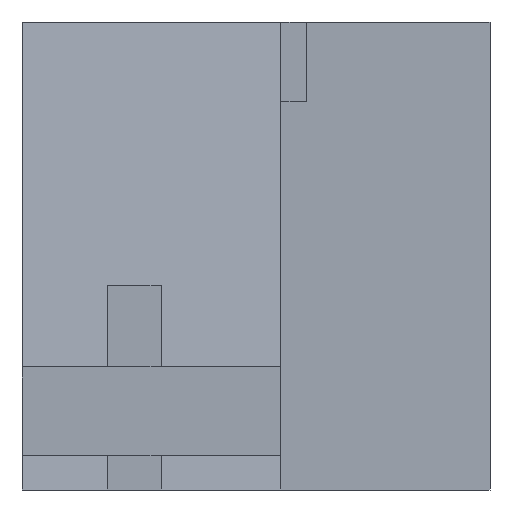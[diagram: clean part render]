
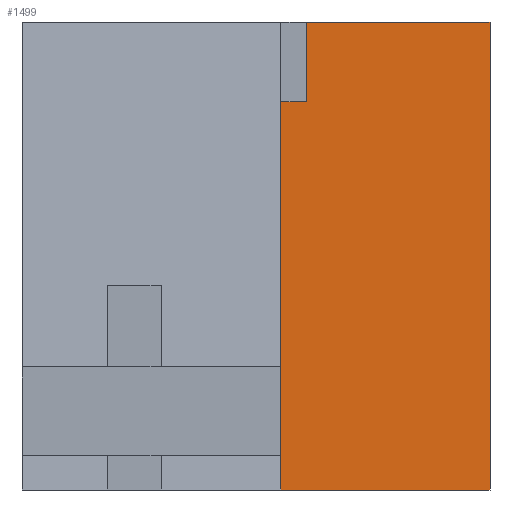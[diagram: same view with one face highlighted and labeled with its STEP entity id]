
A CAD part, front view. The second image highlights one B-rep face of the part: STEP entity #1499.
In plain terms, the highlighted planar face has unit normal (0, -1, 0).
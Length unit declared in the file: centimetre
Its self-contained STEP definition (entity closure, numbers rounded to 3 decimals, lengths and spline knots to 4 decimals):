
#33 = VERTEX_POINT ( 'NONE', #148 ) ;
#38 = CARTESIAN_POINT ( 'NONE',  ( 1000., 0., 1000. ) ) ;
#83 = AXIS2_PLACEMENT_3D ( 'NONE', #316, #905, #1525 ) ;
#91 = EDGE_CURVE ( 'NONE', #33, #1008, #984, .T. ) ;
#125 = CARTESIAN_POINT ( 'NONE',  ( 607.8795, 0., 1000. ) ) ;
#148 = CARTESIAN_POINT ( 'NONE',  ( 607.8795, 0., 829.7585 ) ) ;
#164 = VECTOR ( 'NONE', #183, 100. ) ;
#183 = DIRECTION ( 'NONE',  ( 0., 0., -1. ) ) ;
#185 = VECTOR ( 'NONE', #1221, 100. ) ;
#220 = VECTOR ( 'NONE', #1006, 100. ) ;
#286 = EDGE_CURVE ( 'NONE', #366, #1459, #596, .T. ) ;
#316 = CARTESIAN_POINT ( 'NONE',  ( 0., 0., 1000. ) ) ;
#345 = ORIENTED_EDGE ( 'NONE', *, *, #775, .F. ) ;
#366 = VERTEX_POINT ( 'NONE', #125 ) ;
#428 = VECTOR ( 'NONE', #1924, 100. ) ;
#451 = CARTESIAN_POINT ( 'NONE',  ( 552.8898, 0., 0. ) ) ;
#465 = PLANE ( 'NONE',  #83 ) ;
#596 = LINE ( 'NONE', #1209, #185 ) ;
#647 = CARTESIAN_POINT ( 'NONE',  ( 552.8898, 0., 0. ) ) ;
#661 = ORIENTED_EDGE ( 'NONE', *, *, #2012, .F. ) ;
#746 = EDGE_LOOP ( 'NONE', ( #345, #857, #661, #872, #1067, #886 ) ) ;
#775 = EDGE_CURVE ( 'NONE', #33, #366, #1600, .T. ) ;
#857 = ORIENTED_EDGE ( 'NONE', *, *, #91, .T. ) ;
#872 = ORIENTED_EDGE ( 'NONE', *, *, #1628, .T. ) ;
#880 = VERTEX_POINT ( 'NONE', #1140 ) ;
#886 = ORIENTED_EDGE ( 'NONE', *, *, #286, .F. ) ;
#905 = DIRECTION ( 'NONE',  ( 0., 1., 0. ) ) ;
#937 = CARTESIAN_POINT ( 'NONE',  ( 552.8898, 0., 829.7585 ) ) ;
#980 = VERTEX_POINT ( 'NONE', #451 ) ;
#984 = LINE ( 'NONE', #1441, #428 ) ;
#1006 = DIRECTION ( 'NONE',  ( 0., 0., 1. ) ) ;
#1008 = VERTEX_POINT ( 'NONE', #937 ) ;
#1067 = ORIENTED_EDGE ( 'NONE', *, *, #1625, .F. ) ;
#1129 = CARTESIAN_POINT ( 'NONE',  ( 607.8795, 0., 829.7585 ) ) ;
#1131 = DIRECTION ( 'NONE',  ( 0., 0., 1. ) ) ;
#1140 = CARTESIAN_POINT ( 'NONE',  ( 1000., 0., 0. ) ) ;
#1200 = CARTESIAN_POINT ( 'NONE',  ( 1000., 0., 1000. ) ) ;
#1209 = CARTESIAN_POINT ( 'NONE',  ( 0., 0., 1000. ) ) ;
#1221 = DIRECTION ( 'NONE',  ( 1., 0., 0. ) ) ;
#1304 = VECTOR ( 'NONE', #1585, 100. ) ;
#1400 = FACE_OUTER_BOUND ( 'NONE', #746, .T. ) ;
#1403 = VECTOR ( 'NONE', #1131, 100. ) ;
#1419 = LINE ( 'NONE', #38, #164 ) ;
#1441 = CARTESIAN_POINT ( 'NONE',  ( 607.8795, 0., 829.7585 ) ) ;
#1459 = VERTEX_POINT ( 'NONE', #1200 ) ;
#1499 = ADVANCED_FACE ( 'NONE', ( #1400 ), #465, .F. ) ;
#1525 = DIRECTION ( 'NONE',  ( 0., 0., 1. ) ) ;
#1585 = DIRECTION ( 'NONE',  ( 1., 0., 0. ) ) ;
#1600 = LINE ( 'NONE', #1129, #220 ) ;
#1625 = EDGE_CURVE ( 'NONE', #1459, #880, #1419, .T. ) ;
#1628 = EDGE_CURVE ( 'NONE', #980, #880, #1729, .T. ) ;
#1729 = LINE ( 'NONE', #1892, #1304 ) ;
#1875 = LINE ( 'NONE', #647, #1403 ) ;
#1892 = CARTESIAN_POINT ( 'NONE',  ( 0., 0., 0. ) ) ;
#1924 = DIRECTION ( 'NONE',  ( -1., 0., 0. ) ) ;
#2012 = EDGE_CURVE ( 'NONE', #980, #1008, #1875, .T. ) ;
